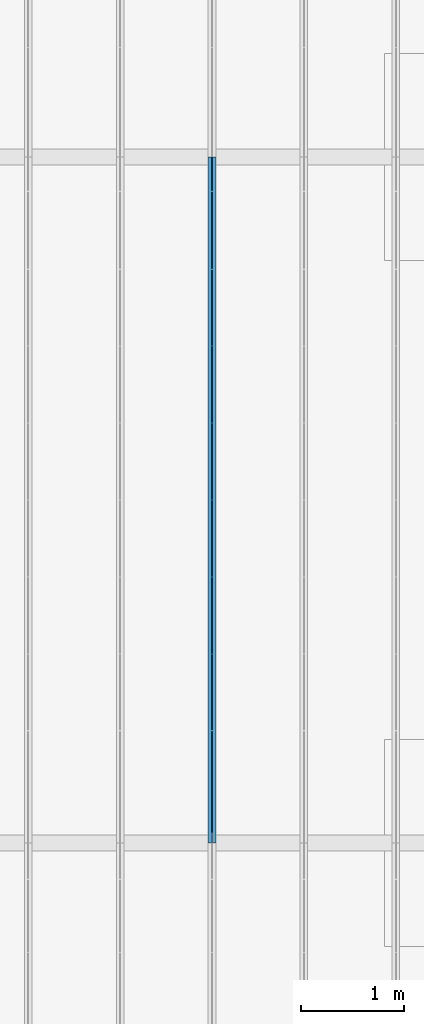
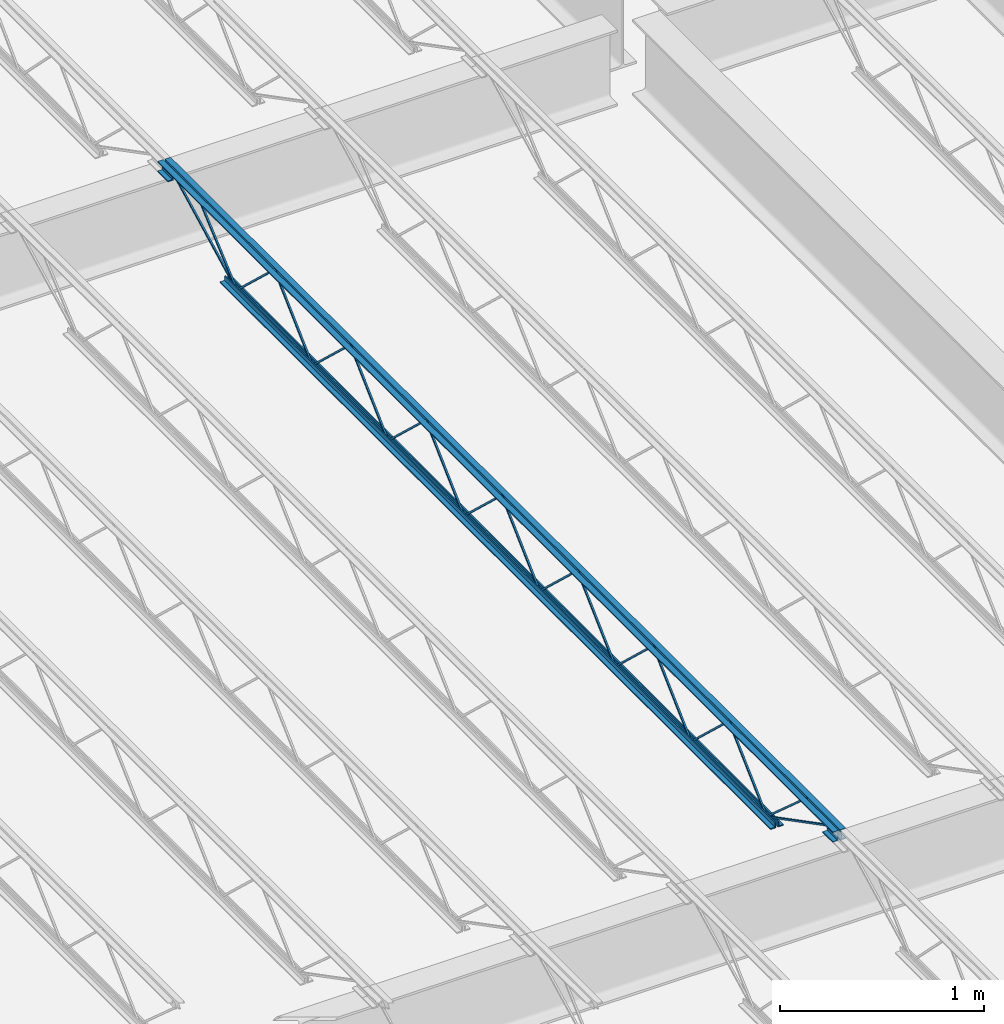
# One storey, part 35 of 75: 1 beam.
"""IFC2X3 building model written with IfcOpenShell, lengths in metres."""

from ifc_helpers import new_model, entity, si_unit, converted_unit, frame, origin, place, context, project, spatial, face_set, surface_model, element, save


model = new_model("IFC2X3")

# Units and contexts
model_context = context("Model", 3, precision=1e-09, world=origin())
plan_context = context("Plan", 3, precision=1e-09, world=origin())
ifc_project = project(units=[si_unit("LENGTHUNIT", "METRE"), si_unit("AREAUNIT", "SQUARE_METRE"), si_unit("VOLUMEUNIT", "CUBIC_METRE"), converted_unit("PLANEANGLEUNIT", "DEGREE", entity("IfcRatioMeasure", 0.01745329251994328), si_unit("PLANEANGLEUNIT", "RADIAN"), dimensions=[0, 0, 0, 0, 0, 0, 0]), si_unit("TIMEUNIT", "SECOND")], contexts=[model_context, plan_context])

# Site, building, storey
site_placement = place(None, origin())
site = spatial("IfcSite", under=ifc_project, at=site_placement, Name="Default", CompositionType="ELEMENT")
building_placement = place(site_placement, origin())
building = spatial("IfcBuilding", under=site, at=building_placement, CompositionType="ELEMENT")
storey_placement = place(building_placement, origin())
storey = spatial("IfcBuildingStorey", under=building, at=storey_placement, Name="First Floor", CompositionType="ELEMENT", Elevation=-3.531500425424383e-13)

# Beam
beam_placement = place(storey_placement, frame((-36.25300000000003, 28.38050000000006, 4.112000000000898), z_axis=(0.0, 0.0, 1.0), x_axis=(-1.0, 0.0, 0.0)))
element("IfcBeam", 1, at=beam_placement, inside=storey, Name="M_K-Series Bar Joist-Rod Web:14K1:14K1", ObjectType="M_K-Series Bar Joist-Rod Web:14K1", context=model_context, shape_type="SurfaceModel", body=[
    surface_model("IfcFaceBasedSurfaceModel", [(-0.03200000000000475, -2.199142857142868, 0.01110000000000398), (-0.04150000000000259, -2.199142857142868, 0.01110000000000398), (-0.04150000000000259, -2.199142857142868, 0.001600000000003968), (-0.03200000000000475, -2.199142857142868, 0.001600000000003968), (-0.04150000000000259, -2.197849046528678, 0.01110000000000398), (-0.03200000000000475, -2.197849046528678, 0.01110000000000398), (-0.0415000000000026, -2.19408666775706, 0.001600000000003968), (-0.04150000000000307, -1.828650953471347, 0.3449000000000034), (-0.04150000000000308, -1.826063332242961, 0.3449000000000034), (-0.04149999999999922, -1.460627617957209, 0.001600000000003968), (-0.04149999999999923, -1.45557142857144, 0.001600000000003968), (-0.04150000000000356, -1.45557142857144, 0.01110000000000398), (-0.04150000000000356, -1.456865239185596, 0.01110000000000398), (-0.04150000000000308, -1.822300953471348, 0.3544000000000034), (-0.04150000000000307, -1.83241333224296, 0.3544000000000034), (-0.03200000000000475, -2.19408666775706, 0.001600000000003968), (-0.03200000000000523, -1.828650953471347, 0.3449000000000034), (-0.03200000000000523, -1.826063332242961, 0.3449000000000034), (-0.03200000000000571, -1.460627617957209, 0.001600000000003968), (-0.03200000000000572, -1.45557142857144, 0.001600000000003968), (-0.03200000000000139, -1.45557142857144, 0.01110000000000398), (-0.03200000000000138, -1.456865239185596, 0.01110000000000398), (-0.03200000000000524, -1.822300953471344, 0.3544000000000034), (-0.03200000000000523, -1.83241333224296, 0.3544000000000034), (-0.03200000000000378, -2.942714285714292, 0.01110000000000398), (-0.04150000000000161, -2.942714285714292, 0.01110000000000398), (-0.04150000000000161, -2.942714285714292, 0.001600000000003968), (-0.03200000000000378, -2.942714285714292, 0.001600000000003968), (-0.04150000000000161, -2.941420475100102, 0.01110000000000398), (-0.03200000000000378, -2.941420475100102, 0.01110000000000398), (-0.04150000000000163, -2.937658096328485, 0.001600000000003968), (-0.0415000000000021, -2.572222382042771, 0.3449000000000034), (-0.04150000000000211, -2.569634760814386, 0.3449000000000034), (-0.04150000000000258, -2.204199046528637, 0.001600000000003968), (-0.04150000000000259, -2.199142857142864, 0.001600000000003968), (-0.04150000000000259, -2.199142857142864, 0.01110000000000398), (-0.04150000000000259, -2.20043666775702, 0.01110000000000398), (-0.04150000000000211, -2.565872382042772, 0.3544000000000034), (-0.0415000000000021, -2.575984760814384, 0.3544000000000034), (-0.03200000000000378, -2.937658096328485, 0.001600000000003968), (-0.03200000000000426, -2.572222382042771, 0.3449000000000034), (-0.03200000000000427, -2.569634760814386, 0.3449000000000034), (-0.03200000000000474, -2.204199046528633, 0.001600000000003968), (-0.03200000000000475, -2.199142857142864, 0.001600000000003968), (-0.03200000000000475, -2.199142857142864, 0.01110000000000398), (-0.03200000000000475, -2.20043666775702, 0.01110000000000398), (-0.03200000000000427, -2.565872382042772, 0.3544000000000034), (-0.03200000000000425, -2.575984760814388, 0.3544000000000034), (-0.0320000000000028, -3.686285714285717, 0.01110000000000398), (-0.04150000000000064, -3.686285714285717, 0.01110000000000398), (-0.04150000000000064, -3.686285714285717, 0.001600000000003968), (-0.0320000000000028, -3.686285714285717, 0.001600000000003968), (-0.04150000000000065, -3.684991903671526, 0.01110000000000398), (-0.0320000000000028, -3.684991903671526, 0.01110000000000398), (-0.04150000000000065, -3.681229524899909, 0.001600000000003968), (-0.04150000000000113, -3.315793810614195, 0.3449000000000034), (-0.04150000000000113, -3.31320618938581, 0.3449000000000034), (-0.04150000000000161, -2.947770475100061, 0.001600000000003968), (-0.04150000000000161, -2.942714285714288, 0.001600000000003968), (-0.04150000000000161, -2.942714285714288, 0.01110000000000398), (-0.04150000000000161, -2.944008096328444, 0.01110000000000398), (-0.04150000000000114, -3.309443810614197, 0.3544000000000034), (-0.04150000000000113, -3.319556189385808, 0.3544000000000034), (-0.03200000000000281, -3.681229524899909, 0.001600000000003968), (-0.03200000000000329, -3.315793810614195, 0.3449000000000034), (-0.03200000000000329, -3.31320618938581, 0.3449000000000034), (-0.03200000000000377, -2.947770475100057, 0.001600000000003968), (-0.03200000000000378, -2.942714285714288, 0.001600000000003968), (-0.03200000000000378, -2.942714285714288, 0.01110000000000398), (-0.03200000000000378, -2.944008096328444, 0.01110000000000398), (-0.0320000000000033, -3.309443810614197, 0.3544000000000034), (-0.03200000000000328, -3.319556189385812, 0.3544000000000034), (-0.03200000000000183, -4.429857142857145, 0.01110000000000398), (-0.04149999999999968, -4.429857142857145, 0.01110000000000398), (-0.04149999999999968, -4.429857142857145, 0.001600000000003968), (-0.03200000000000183, -4.429857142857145, 0.001600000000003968), (-0.04149999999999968, -4.42856333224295, 0.01110000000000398), (-0.03200000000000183, -4.42856333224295, 0.01110000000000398), (-0.04149999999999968, -4.424800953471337, 0.001600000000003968), (-0.04150000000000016, -4.059365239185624, 0.3449000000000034), (-0.04150000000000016, -4.056777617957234, 0.3449000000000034), (-0.04150000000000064, -3.691341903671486, 0.001600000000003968), (-0.04150000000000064, -3.686285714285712, 0.01110000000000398), (-0.04150000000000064, -3.687579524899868, 0.01110000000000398), (-0.04150000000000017, -4.053015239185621, 0.3544000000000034), (-0.04150000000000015, -4.063127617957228, 0.3544000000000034), (-0.03200000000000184, -4.424800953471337, 0.001600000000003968), (-0.03200000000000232, -4.059365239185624, 0.3449000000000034), (-0.03200000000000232, -4.056777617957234, 0.3449000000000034), (-0.0320000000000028, -3.691341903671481, 0.001600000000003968), (-0.0320000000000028, -3.686285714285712, 0.001600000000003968), (-0.0320000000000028, -3.687579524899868, 0.01110000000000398), (-0.03200000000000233, -4.053015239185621, 0.3544000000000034), (-0.03200000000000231, -4.063127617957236, 0.3544000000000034), (-0.03200000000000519, -5.173428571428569, 0.01110000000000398), (-0.04150000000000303, -5.173428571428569, 0.01110000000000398), (-0.04150000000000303, -5.173428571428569, 0.001600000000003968), (-0.03200000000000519, -5.173428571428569, 0.001600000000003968), (-0.04150000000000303, -5.172134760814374, 0.01110000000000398), (-0.0320000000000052, -5.172134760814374, 0.01110000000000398), (-0.04150000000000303, -5.168372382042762, 0.001600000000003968), (-0.04149999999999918, -4.802936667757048, 0.3449000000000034), (-0.04149999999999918, -4.800349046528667, 0.3449000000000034), (-0.04149999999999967, -4.43491333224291, 0.001600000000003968), (-0.04150000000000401, -4.429857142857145, 0.01110000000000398), (-0.041500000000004, -4.431150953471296, 0.01110000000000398), (-0.04150000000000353, -4.796586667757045, 0.3544000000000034), (-0.04150000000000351, -4.806699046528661, 0.3544000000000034), (-0.0320000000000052, -5.168372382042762, 0.001600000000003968), (-0.03200000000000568, -4.802936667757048, 0.3449000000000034), (-0.03200000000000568, -4.800349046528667, 0.3449000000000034), (-0.03200000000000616, -4.43491333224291, 0.001600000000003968), (-0.03200000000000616, -4.429857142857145, 0.001600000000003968), (-0.03200000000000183, -4.431150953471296, 0.01110000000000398), (-0.03200000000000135, -4.796586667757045, 0.3544000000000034), (-0.03200000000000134, -4.806699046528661, 0.3544000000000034), (-0.03200000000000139, -1.455571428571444, 0.01109999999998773), (-0.04149999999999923, -1.455571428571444, 0.01109999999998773), (-0.04149999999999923, -1.455571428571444, 0.001599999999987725), (-0.03200000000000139, -1.455571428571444, 0.001599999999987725), (-0.04149999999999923, -1.454277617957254, 0.01109999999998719), (-0.03200000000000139, -1.454277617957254, 0.01109999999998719), (-0.04150000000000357, -1.450515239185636, 0.001599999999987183), (-0.04150000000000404, -1.085079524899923, 0.3448999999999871), (-0.04150000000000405, -1.082491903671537, 0.3448999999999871), (-0.04150000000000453, -0.7170561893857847, 0.001599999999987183), (-0.0415000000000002, -0.7120000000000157, 0.001599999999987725), (-0.04150000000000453, -0.7120000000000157, 0.01109999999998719), (-0.04150000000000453, -0.7132938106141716, 0.01109999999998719), (-0.04150000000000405, -1.078729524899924, 0.3543999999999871), (-0.04150000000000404, -1.088841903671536, 0.3543999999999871), (-0.03200000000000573, -1.450515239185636, 0.001599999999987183), (-0.03200000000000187, -1.085079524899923, 0.3448999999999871), (-0.03200000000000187, -1.082491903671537, 0.3448999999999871), (-0.03200000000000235, -0.7170561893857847, 0.001599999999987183), (-0.03200000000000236, -0.7120000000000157, 0.001599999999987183), (-0.03200000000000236, -0.7120000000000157, 0.01109999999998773), (-0.03200000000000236, -0.7132938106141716, 0.01109999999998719), (-0.03200000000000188, -1.07872952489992, 0.3543999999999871), (-0.03200000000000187, -1.088841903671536, 0.3543999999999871), (-0.03200000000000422, -5.916999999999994, 0.01110000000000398), (-0.04150000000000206, -5.916999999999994, 0.01110000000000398), (-0.04150000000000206, -5.916999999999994, 0.001600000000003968), (-0.03200000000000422, -5.916999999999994, 0.001600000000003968), (-0.04150000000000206, -5.915706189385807, 0.01110000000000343), (-0.03200000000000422, -5.915706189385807, 0.01110000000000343), (-0.04150000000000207, -5.911943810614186, 0.001600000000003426), (-0.04150000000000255, -5.546508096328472, 0.3449000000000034), (-0.04150000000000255, -5.543920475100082, 0.3449000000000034), (-0.04150000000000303, -5.178484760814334, 0.001600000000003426), (-0.04150000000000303, -5.173428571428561, 0.001600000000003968), (-0.04150000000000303, -5.173428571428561, 0.01110000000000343), (-0.04150000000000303, -5.174722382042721, 0.01110000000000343), (-0.04150000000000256, -5.540158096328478, 0.3544000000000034), (-0.04150000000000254, -5.550270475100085, 0.3544000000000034), (-0.03200000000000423, -5.911943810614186, 0.001600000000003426), (-0.03200000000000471, -5.546508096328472, 0.3449000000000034), (-0.03200000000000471, -5.543920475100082, 0.3449000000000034), (-0.03200000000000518, -5.178484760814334, 0.001600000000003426), (-0.03200000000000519, -5.173428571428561, 0.001600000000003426), (-0.03200000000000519, -5.173428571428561, 0.01110000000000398), (-0.03200000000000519, -5.174722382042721, 0.01110000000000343), (-0.03200000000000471, -5.540158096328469, 0.3544000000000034), (-0.0320000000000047, -5.550270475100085, 0.3544000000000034), (-0.04150000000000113, 0.0, 0.3559999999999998), (-0.07350000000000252, 0.0, 0.3559999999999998), (-0.07350000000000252, 0.0, 0.349499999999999), (-0.04799999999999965, 0.0, 0.349499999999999), (-0.04799999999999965, 0.0, 0.3239999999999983), (-0.04150000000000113, 0.0, 0.3239999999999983), (-0.03200000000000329, 0.0, 0.3559999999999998), (-0.03200000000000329, 0.0, 0.3239999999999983), (-0.02550000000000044, 0.0, 0.3239999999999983), (-0.02550000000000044, 0.0, 0.349499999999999), (0.0, 0.0, 0.349499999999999), (0.0, 0.0, 0.3559999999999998), (-0.04150000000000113, -6.628999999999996, 0.3559999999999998), (-0.07350000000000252, -6.628999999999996, 0.3559999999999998), (-0.07350000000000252, -6.628999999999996, 0.349499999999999), (-0.04799999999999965, -6.628999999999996, 0.349499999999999), (-0.04799999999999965, -6.628999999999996, 0.3239999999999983), (-0.04150000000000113, -6.628999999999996, 0.3239999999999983), (-0.03200000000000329, -6.628999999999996, 0.3559999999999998), (-0.03200000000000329, -6.628999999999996, 0.3239999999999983), (-0.02550000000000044, -6.628999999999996, 0.3239999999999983), (-0.02550000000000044, -6.628999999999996, 0.349499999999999), (0.0, -6.628999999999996, 0.349499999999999), (0.0, -6.628999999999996, 0.3559999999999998), (-0.03200000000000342, -6.529000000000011, 0.2924999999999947), (0.0, -6.529000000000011, 0.2924999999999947), (0.0, -6.529000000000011, 0.2989999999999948), (-0.0255000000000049, -6.529000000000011, 0.2989999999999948), (-0.0255000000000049, -6.529000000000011, 0.3239999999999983), (-0.03200000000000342, -6.529000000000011, 0.3239999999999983), (-0.07350000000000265, -6.529000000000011, 0.2924999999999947), (-0.04150000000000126, -6.529000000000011, 0.2924999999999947), (-0.04150000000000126, -6.529000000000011, 0.3239999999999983), (-0.04800000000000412, -6.529000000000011, 0.3239999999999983), (-0.04800000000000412, -6.529000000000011, 0.2989999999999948), (-0.07350000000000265, -6.529000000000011, 0.2989999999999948), (-0.03200000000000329, -6.628999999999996, 0.2924999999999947), (0.0, -6.628999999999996, 0.2924999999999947), (0.0, -6.628999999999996, 0.2989999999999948), (-0.02550000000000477, -6.628999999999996, 0.2989999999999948), (-0.02550000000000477, -6.628999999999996, 0.3239999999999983), (-0.07350000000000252, -6.628999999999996, 0.2924999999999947), (-0.04150000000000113, -6.628999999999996, 0.2924999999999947), (-0.04800000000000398, -6.628999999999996, 0.3239999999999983), (-0.04800000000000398, -6.628999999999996, 0.2989999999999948), (-0.07350000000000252, -6.628999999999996, 0.2989999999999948), (-0.04150000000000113, 0.0, 0.2924999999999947), (-0.04800000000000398, 0.0, 0.3239999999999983), (-0.04800000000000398, 0.0, 0.2989999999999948), (-0.07350000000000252, 0.0, 0.2989999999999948), (-0.07350000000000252, 0.0, 0.2924999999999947), (-0.03200000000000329, 0.0, 0.2924999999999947), (0.0, 0.0, 0.2924999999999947), (0.0, 0.0, 0.2989999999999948), (-0.02550000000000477, 0.0, 0.2989999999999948), (-0.02550000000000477, 0.0, 0.3239999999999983), (-0.04150000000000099, -0.0999999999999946, 0.2924999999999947), (-0.04150000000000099, -0.0999999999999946, 0.3239999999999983), (-0.04800000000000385, -0.0999999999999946, 0.3239999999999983), (-0.04800000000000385, -0.0999999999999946, 0.2989999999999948), (-0.07350000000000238, -0.0999999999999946, 0.2989999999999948), (-0.07350000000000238, -0.0999999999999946, 0.2924999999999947), (-0.03200000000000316, -0.0999999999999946, 0.2924999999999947), (0.0, -0.0999999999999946, 0.2924999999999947), (0.0, -0.0999999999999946, 0.2989999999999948), (-0.02550000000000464, -0.0999999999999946, 0.2989999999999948), (-0.02550000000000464, -0.0999999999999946, 0.3239999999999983), (-0.03200000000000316, -0.0999999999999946, 0.3239999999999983), (-0.04150000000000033, -0.6119999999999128, 0.0), (-0.04150000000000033, -0.6119999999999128, 0.03199999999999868), (-0.04799999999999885, -0.6119999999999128, 0.03199999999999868), (-0.04799999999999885, -0.6119999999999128, 0.006499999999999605), (-0.07350000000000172, -0.6119999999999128, 0.006499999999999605), (-0.07350000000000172, -0.6119999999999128, 0.0), (-0.03200000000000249, -0.6119999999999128, 0.0), (0.0, -0.6119999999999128, 0.0), (0.0, -0.6119999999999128, 0.006499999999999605), (-0.02549999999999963, -0.6119999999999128, 0.006499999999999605), (-0.02549999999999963, -0.6119999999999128, 0.03199999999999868), (-0.03200000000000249, -0.6119999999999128, 0.03199999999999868), (-0.04150000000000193, -6.016999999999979, 0.0), (-0.04150000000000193, -6.016999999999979, 0.03199999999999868), (-0.04800000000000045, -6.016999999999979, 0.03199999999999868), (-0.04800000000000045, -6.016999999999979, 0.006499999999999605), (-0.07350000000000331, -6.016999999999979, 0.006499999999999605), (-0.07350000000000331, -6.016999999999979, 0.0), (-0.0320000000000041, -6.016999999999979, 0.0), (0.0, -6.016999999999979, 0.0), (0.0, -6.016999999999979, 0.006499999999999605), (-0.02550000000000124, -6.016999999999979, 0.006499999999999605), (-0.02550000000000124, -6.016999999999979, 0.03199999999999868), (-0.0320000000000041, -6.016999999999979, 0.03199999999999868), (-0.03200000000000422, -5.914811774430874, 0.01056594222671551), (-0.04150000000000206, -5.914811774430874, 0.01056594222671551), (-0.04150000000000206, -5.919188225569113, 0.002134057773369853), (-0.03200000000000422, -5.919188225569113, 0.002134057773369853), (-0.03200000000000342, -6.527840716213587, 0.3287499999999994), (-0.03200000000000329, -6.628999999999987, 0.3287499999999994), (-0.03200000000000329, -6.628999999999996, 0.3192499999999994), (-0.03200000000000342, -6.530159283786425, 0.3192499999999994), (-0.04150000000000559, -6.530159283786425, 0.3192499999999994), (-0.04150000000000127, -6.527840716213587, 0.3287499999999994), (-0.04150000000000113, -6.628999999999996, 0.3287499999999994), (-0.04150000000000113, -6.628999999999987, 0.3192499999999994), (-0.03200000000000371, -6.308742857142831, 0.341700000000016), (-0.04150000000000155, -6.308742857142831, 0.341700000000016), (-0.04150000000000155, -6.308742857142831, 0.332200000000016), (-0.03200000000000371, -6.308742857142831, 0.332200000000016), (-0.04150000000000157, -6.29426242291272, 0.341700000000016), (-0.03200000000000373, -6.29426242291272, 0.341700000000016), (-0.04150000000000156, -6.297823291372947, 0.3322000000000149), (-0.04150000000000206, -5.920122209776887, 0.002770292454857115), (-0.04150000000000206, -5.913877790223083, 0.009929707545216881), (-0.03199999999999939, -6.297823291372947, 0.332200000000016), (-0.03200000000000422, -5.920122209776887, 0.002770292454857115), (-0.03200000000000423, -5.913877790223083, 0.00992970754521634), (-0.03200000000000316, -0.09781177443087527, 0.3197840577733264), (-0.03200000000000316, -0.1021882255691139, 0.3282159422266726), (-0.04150000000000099, -0.1021882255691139, 0.3282159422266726), (-0.04150000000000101, -0.09781177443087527, 0.3197840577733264), (-0.03200000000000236, -0.7098117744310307, 0.002134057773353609), (-0.03200000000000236, -0.7141882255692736, 0.01056594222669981), (-0.0415000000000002, -0.7141882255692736, 0.01056594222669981), (-0.0415000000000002, -0.7098117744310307, 0.002134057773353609), (-0.03200000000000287, -0.3225446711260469, 0.3460994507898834), (-0.03200000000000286, -0.3288553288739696, 0.3532005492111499), (-0.0415000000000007, -0.3288553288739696, 0.3532005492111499), (-0.04150000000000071, -0.3225446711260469, 0.3460994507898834), (-0.03200000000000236, -0.7088446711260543, 0.002799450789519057), (-0.03200000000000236, -0.7151553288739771, 0.009900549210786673), (-0.0415000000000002, -0.7151553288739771, 0.009900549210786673), (-0.0415000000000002, -0.7088446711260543, 0.002799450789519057)], [face_set([[[0, 1, 2, 3]], [[1, 4, 5, 0]], [[2, 6, 7, 8, 9, 10, 11, 12, 13, 14, 4, 1]], [[3, 2, 6, 15]], [[0, 3, 15, 16, 17, 18, 19, 20, 21, 22, 23, 5]], [[4, 5, 23, 14]], [[15, 16, 7, 6]], [[14, 13, 22, 23]], [[16, 7, 8, 17]], [[13, 12, 21, 22]], [[17, 8, 9, 18]], [[20, 11, 10, 19]], [[12, 11, 20, 21]], [[18, 9, 10, 19]]]), face_set([[[24, 25, 26, 27]], [[25, 28, 29, 24]], [[26, 30, 31, 32, 33, 34, 35, 36, 37, 38, 28, 25]], [[27, 26, 30, 39]], [[24, 27, 39, 40, 41, 42, 43, 44, 45, 46, 47, 29]], [[28, 29, 47, 38]], [[39, 40, 31, 30]], [[38, 37, 46, 47]], [[40, 31, 32, 41]], [[37, 36, 45, 46]], [[41, 32, 33, 42]], [[44, 35, 34, 43]], [[36, 35, 44, 45]], [[42, 33, 34, 43]]]), face_set([[[48, 49, 50, 51]], [[49, 52, 53, 48]], [[50, 54, 55, 56, 57, 58, 59, 60, 61, 62, 52, 49]], [[51, 50, 54, 63]], [[48, 51, 63, 64, 65, 66, 67, 68, 69, 70, 71, 53]], [[52, 53, 71, 62]], [[63, 64, 55, 54]], [[62, 61, 70, 71]], [[64, 55, 56, 65]], [[61, 60, 69, 70]], [[65, 56, 57, 66]], [[68, 59, 58, 67]], [[60, 59, 68, 69]], [[66, 57, 58, 67]]]), face_set([[[72, 73, 74, 75]], [[73, 76, 77, 72]], [[74, 78, 79, 80, 81, 50, 82, 83, 84, 85, 76, 73]], [[75, 74, 78, 86]], [[72, 75, 86, 87, 88, 89, 90, 48, 91, 92, 93, 77]], [[76, 77, 93, 85]], [[86, 87, 79, 78]], [[85, 84, 92, 93]], [[87, 79, 80, 88]], [[84, 83, 91, 92]], [[88, 80, 81, 89]], [[48, 82, 50, 90]], [[83, 82, 48, 91]], [[89, 81, 50, 90]]]), face_set([[[94, 95, 96, 97]], [[95, 98, 99, 94]], [[96, 100, 101, 102, 103, 74, 104, 105, 106, 107, 98, 95]], [[97, 96, 100, 108]], [[94, 97, 108, 109, 110, 111, 112, 72, 113, 114, 115, 99]], [[98, 99, 115, 107]], [[108, 109, 101, 100]], [[107, 106, 114, 115]], [[109, 101, 102, 110]], [[106, 105, 113, 114]], [[110, 102, 103, 111]], [[72, 104, 74, 112]], [[105, 104, 72, 113]], [[111, 103, 74, 112]]]), face_set([[[116, 117, 118, 119]], [[117, 120, 121, 116]], [[118, 122, 123, 124, 125, 126, 127, 128, 129, 130, 120, 117]], [[119, 118, 122, 131]], [[116, 119, 131, 132, 133, 134, 135, 136, 137, 138, 139, 121]], [[120, 121, 139, 130]], [[131, 132, 123, 122]], [[130, 129, 138, 139]], [[132, 123, 124, 133]], [[129, 128, 137, 138]], [[133, 124, 125, 134]], [[136, 127, 126, 135]], [[128, 127, 136, 137]], [[134, 125, 126, 135]]]), face_set([[[140, 141, 142, 143]], [[141, 144, 145, 140]], [[142, 146, 147, 148, 149, 150, 151, 152, 153, 154, 144, 141]], [[143, 142, 146, 155]], [[140, 143, 155, 156, 157, 158, 159, 160, 161, 162, 163, 145]], [[144, 145, 163, 154]], [[155, 156, 147, 146]], [[154, 153, 162, 163]], [[156, 147, 148, 157]], [[153, 152, 161, 162]], [[157, 148, 149, 158]], [[160, 151, 150, 159]], [[152, 151, 160, 161]], [[158, 149, 150, 159]]]), face_set([[[164, 165, 166, 167, 168, 169]], [[170, 171, 172, 173, 174, 175]], [[176, 177, 178, 179, 180, 181]], [[182, 183, 184, 185, 186, 187]], [[169, 164, 176, 181]], [[168, 169, 181, 180]], [[167, 179, 180, 168]], [[166, 167, 179, 178]], [[165, 177, 178, 166]], [[164, 176, 177, 165]], [[175, 187, 182, 170]], [[174, 175, 187, 186]], [[173, 174, 186, 185]], [[172, 173, 185, 184]], [[171, 172, 184, 183]], [[170, 182, 183, 171]]]), face_set([[[188, 189, 190, 191, 192, 193]], [[194, 195, 196, 197, 198, 199]], [[200, 201, 202, 203, 204, 183]], [[205, 206, 181, 207, 208, 209]], [[193, 183, 200, 188]], [[192, 204, 183, 193]], [[191, 192, 204, 203]], [[190, 202, 203, 191]], [[189, 190, 202, 201]], [[188, 189, 201, 200]], [[199, 209, 205, 194]], [[198, 208, 209, 199]], [[197, 207, 208, 198]], [[196, 181, 207, 197]], [[195, 196, 181, 206]], [[194, 195, 206, 205]]]), face_set([[[210, 169, 211, 212, 213, 214]], [[215, 216, 217, 218, 219, 171]], [[220, 221, 222, 223, 224, 225]], [[226, 227, 228, 229, 230, 231]], [[214, 210, 220, 225]], [[213, 224, 225, 214]], [[212, 223, 224, 213]], [[211, 222, 223, 212]], [[169, 221, 222, 211]], [[210, 169, 221, 220]], [[171, 231, 226, 215]], [[219, 230, 231, 171]], [[218, 219, 230, 229]], [[217, 228, 229, 218]], [[216, 217, 228, 227]], [[215, 216, 227, 226]]]), face_set([[[232, 233, 234, 235, 236, 237]], [[238, 239, 240, 241, 242, 243]], [[244, 245, 246, 247, 248, 249]], [[250, 251, 252, 253, 254, 255]], [[237, 232, 244, 249]], [[236, 248, 249, 237]], [[235, 247, 248, 236]], [[234, 246, 247, 235]], [[233, 245, 246, 234]], [[232, 233, 245, 244]], [[243, 255, 250, 238]], [[242, 254, 255, 243]], [[241, 242, 254, 253]], [[240, 252, 253, 241]], [[239, 240, 252, 251]], [[238, 239, 251, 250]]]), face_set([[[256, 257, 258, 259]], [[259, 256, 260, 261, 262, 263]], [[258, 259, 263, 264]], [[257, 265, 266, 267, 264, 258]], [[256, 260, 265, 257]], [[261, 266, 267, 262]], [[264, 263, 262, 267]], [[260, 261, 266, 265]]]), face_set([[[268, 269, 270, 271]], [[269, 272, 273, 268]], [[270, 274, 275, 276, 272, 269]], [[271, 270, 274, 277]], [[268, 271, 277, 278, 279, 273]], [[279, 276, 275, 278]], [[272, 276, 279, 273]], [[277, 274, 275, 278]]]), face_set([[[280, 281, 282, 283]], [[284, 285, 286, 287]], [[283, 287, 284, 280]], [[282, 286, 287, 283]], [[281, 282, 286, 285]], [[280, 281, 285, 284]]]), face_set([[[288, 289, 290, 291]], [[292, 293, 294, 295]], [[291, 295, 292, 288]], [[290, 294, 295, 291]], [[289, 290, 294, 293]], [[288, 289, 293, 292]]])]),
])

save(model, "model.ifc")
